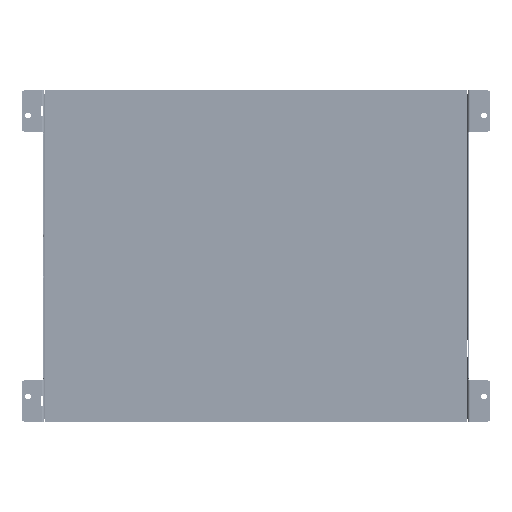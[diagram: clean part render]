
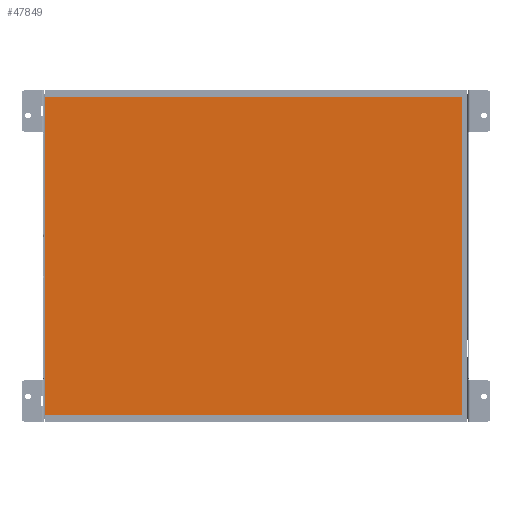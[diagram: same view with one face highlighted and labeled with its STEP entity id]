
A CAD part, top view. The second image highlights one B-rep face of the part: STEP entity #47849.
In plain terms, the highlighted planar face has unit normal (0, 0, 1) as drawn and (0, 1, 0) by its records, which use the part's own axes.
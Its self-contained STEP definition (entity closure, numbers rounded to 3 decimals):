
#2390 = ORIENTED_EDGE ( 'NONE', *, *, #366794, .T. ) ;
#3688 = CARTESIAN_POINT ( 'NONE',  ( -162.75, 0., -122.75 ) ) ;
#8771 = EDGE_CURVE ( 'NONE', #306350, #13610, #354103, .T. ) ;
#13610 = VERTEX_POINT ( 'NONE', #292205 ) ;
#15079 = DIRECTION ( 'NONE',  ( 0., 0., 1. ) ) ;
#43615 = AXIS2_PLACEMENT_3D ( 'NONE', #331897, #304368, #15079 ) ;
#46236 = EDGE_CURVE ( 'NONE', #13610, #79102, #168315, .T. ) ;
#47849 = ADVANCED_FACE ( 'NONE', ( #203063 ), #105957, .T. ) ;
#79102 = VERTEX_POINT ( 'NONE', #101237 ) ;
#79782 = LINE ( 'NONE', #208575, #398885 ) ;
#92169 = CARTESIAN_POINT ( 'NONE',  ( 159.25, 0., -122.75 ) ) ;
#100619 = DIRECTION ( 'NONE',  ( -1., 0., 0. ) ) ;
#101237 = CARTESIAN_POINT ( 'NONE',  ( -162.75, 0., 122.75 ) ) ;
#105957 = PLANE ( 'NONE',  #43615 ) ;
#130394 = DIRECTION ( 'NONE',  ( 0., 0., 1. ) ) ;
#168315 = LINE ( 'NONE', #3688, #393292 ) ;
#174940 = ORIENTED_EDGE ( 'NONE', *, *, #8771, .T. ) ;
#199021 = VERTEX_POINT ( 'NONE', #202142 ) ;
#202142 = CARTESIAN_POINT ( 'NONE',  ( 159.25, 0., 122.75 ) ) ;
#203063 = FACE_OUTER_BOUND ( 'NONE', #390616, .T. ) ;
#205362 = VECTOR ( 'NONE', #100619, 1000. ) ;
#208575 = CARTESIAN_POINT ( 'NONE',  ( -162.75, 0., 122.75 ) ) ;
#216488 = ORIENTED_EDGE ( 'NONE', *, *, #271356, .T. ) ;
#218773 = VECTOR ( 'NONE', #373121, 1000. ) ;
#223852 = CARTESIAN_POINT ( 'NONE',  ( 159.25, 0., -122.75 ) ) ;
#271356 = EDGE_CURVE ( 'NONE', #199021, #306350, #282256, .T. ) ;
#282256 = LINE ( 'NONE', #92169, #218773 ) ;
#292205 = CARTESIAN_POINT ( 'NONE',  ( -162.75, 0., -122.75 ) ) ;
#304368 = DIRECTION ( 'NONE',  ( 0., 1., 0. ) ) ;
#306350 = VERTEX_POINT ( 'NONE', #223852 ) ;
#328342 = ORIENTED_EDGE ( 'NONE', *, *, #46236, .T. ) ;
#331897 = CARTESIAN_POINT ( 'NONE',  ( -162.75, 0., 122.75 ) ) ;
#354103 = LINE ( 'NONE', #360332, #205362 ) ;
#360332 = CARTESIAN_POINT ( 'NONE',  ( -162.75, 0., -122.75 ) ) ;
#366794 = EDGE_CURVE ( 'NONE', #79102, #199021, #79782, .T. ) ;
#373121 = DIRECTION ( 'NONE',  ( 0., 0., -1. ) ) ;
#375327 = DIRECTION ( 'NONE',  ( 1., 0., 0. ) ) ;
#390616 = EDGE_LOOP ( 'NONE', ( #328342, #2390, #216488, #174940 ) ) ;
#393292 = VECTOR ( 'NONE', #130394, 1000. ) ;
#398885 = VECTOR ( 'NONE', #375327, 1000. ) ;
